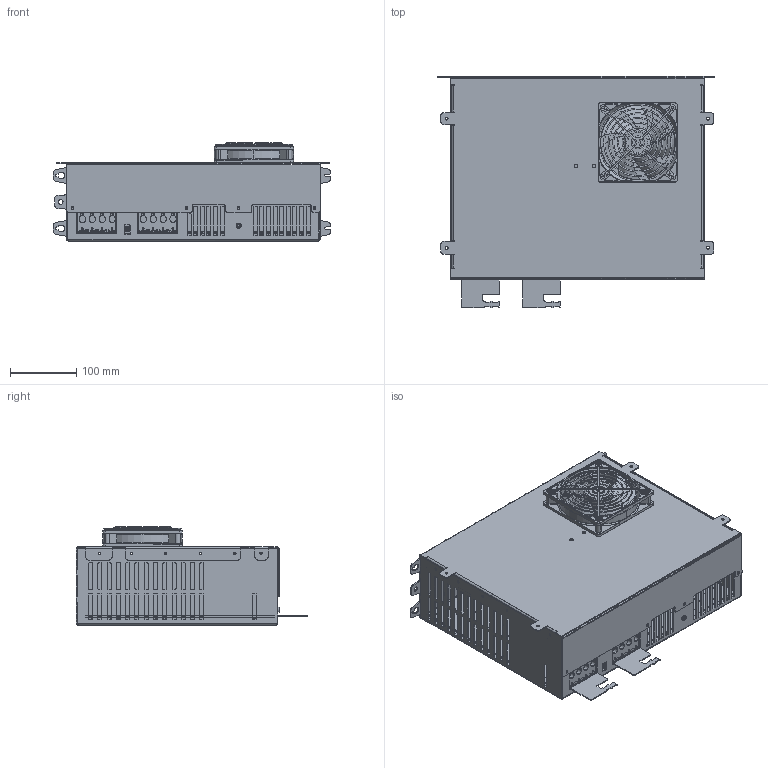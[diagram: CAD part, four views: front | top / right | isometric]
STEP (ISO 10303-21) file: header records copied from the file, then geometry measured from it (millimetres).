
FILE_DESCRIPTION (( 'STEP AP214' ), '1' );
FILE_NAME ('TFC60_Reduced_Rev0.STEP', '2023-12-14T09:02:13', ( '' ), ( '' ), 'SwSTEP 2.0', 'SolidWorks 2021', '' );
FILE_SCHEMA (( 'AUTOMOTIVE_DESIGN' ));
Length unit declared in the file: millimetre
Products named in the file (6): Mech-Fan-Grill-120; TFC60_Reduced_Rev0; Mech-Fan-120x25_Standard; TFC60-Case-4301_Standard; TFC60_PCBA_Rev0_Standard; Mech-Nut-Penn-SP-M4-2_Standard
Assembly tree (5 placements, depth 2):
  TFC60_Reduced_Rev0
    TFC60-Case-4301_Standard
    Mech-Fan-120x25_Standard
    TFC60_PCBA_Rev0_Standard
    Mech-Fan-Grill-120
    Mech-Nut-Penn-SP-M4-2_Standard
Bounding box: 419 x 349.5 x 148.4 mm (x, y, z)
Volume: 910501.5 mm3; surface area: 1090772.7 mm2
Topology: 109 solids, 115 shells, 3683 faces, 9691 edges, 6268 vertices
Faces by surface type: plane 1768, cylinder 1292, bspline 304, torus 225, sphere 48, cone 46
Entity records: 136019 total; most frequent: CARTESIAN_POINT 42225, ORIENTED_EDGE 19310, DIRECTION 18591, EDGE_CURVE 9655, AXIS2_PLACEMENT_3D 6659, VERTEX_POINT 6264, LINE 5273, VECTOR 5273
